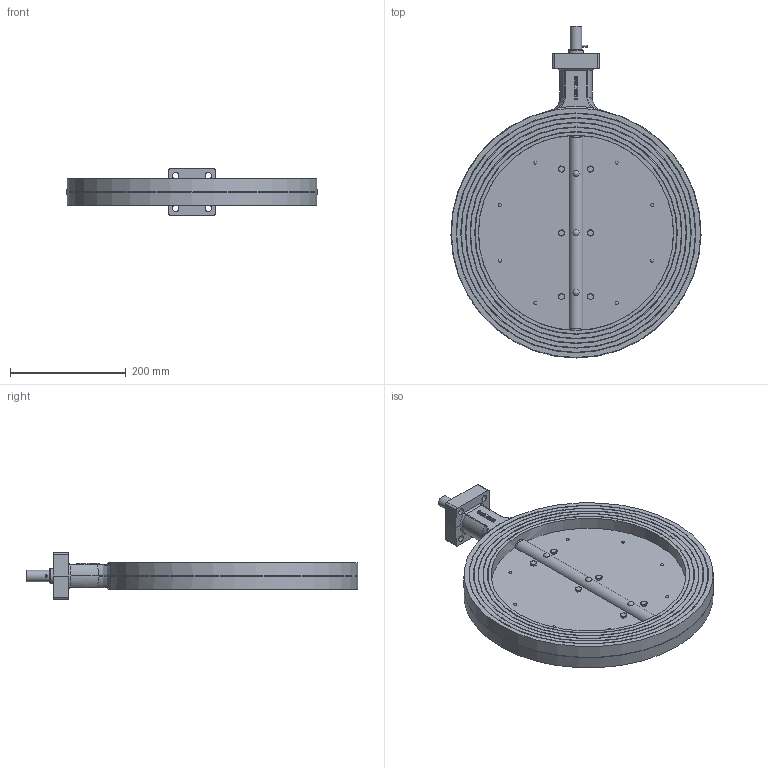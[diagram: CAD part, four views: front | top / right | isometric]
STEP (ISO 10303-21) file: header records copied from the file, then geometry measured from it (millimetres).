
FILE_DESCRIPTION((''),'2;1');
FILE_NAME('G:\CAD-Download\MRK\MRK Ro We\DN 350\MRK Ro We 350-4.00.32.stp','2010-08-26T12:50:04',('da'),(''),'Autodesk Inventor 2008','Autodesk Inventor 2008','');
FILE_SCHEMA(('AUTOMOTIVE_DESIGN { 1 0 10303 214 1 1 1 1 }'));
Length unit declared in the file: millimetre
Products named in the file (1): Bauteil2
Bounding box: 431.65 x 572.87 x 80 mm (x, y, z)
Volume: 3304065.4 mm3; surface area: 610618.1 mm2
Topology: 1 solids, 1 shells, 613 faces, 1525 edges, 983 vertices
Faces by surface type: plane 309, cylinder 97, bspline 94, cone 90, sphere 22, torus 1
Full cylindrical faces by diameter (mm): 2.5 x2, 3 x8, 6 x9, 6.5 x6, 8.88 x6, 19 x2, 20 x3, 25 x1, 39.9 x1, 42.5 x1, 337 x1
Entity records: 21327 total; most frequent: CARTESIAN_POINT 7922, ORIENTED_EDGE 2702, DIRECTION 2459, EDGE_CURVE 1351, AXIS2_PLACEMENT_3D 930, VERTEX_POINT 919, EDGE_LOOP 862, FACE_OUTER_BOUND 613
